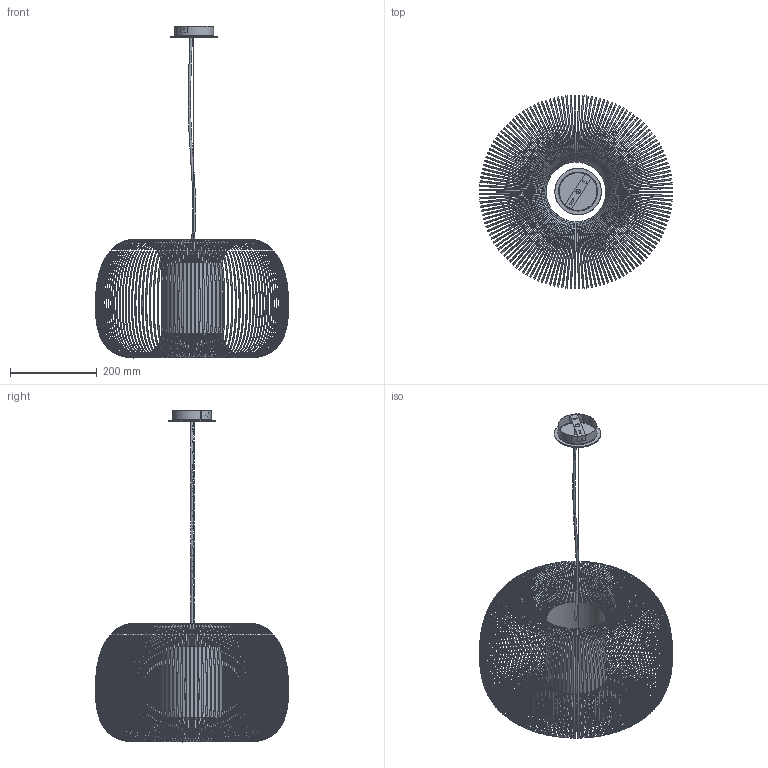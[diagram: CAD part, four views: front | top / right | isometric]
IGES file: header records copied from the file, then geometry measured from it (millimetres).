
Global section: file name: C:\Users\EQUIPO\Desktop\COLECCIONES ACB MODELADAS 3D OK\MIRTA\mirta-3055-colgante-45 (IGES).igs; native system: Rhinoceros ( Oct  8 2013 ); preprocessor: Trout Lake IGES 012 Oct  8 2013; date: 190207.113145; units: millimetre
Bounding box: 445.91 x 445.94 x 765.98 mm (x, y, z)
Surface area: 667930.8 mm2 (no closed solid volume)
Topology: 0 solids, 0 shells, 656 faces, 3088 edges, 3062 vertices
Faces by surface type: bspline 656
